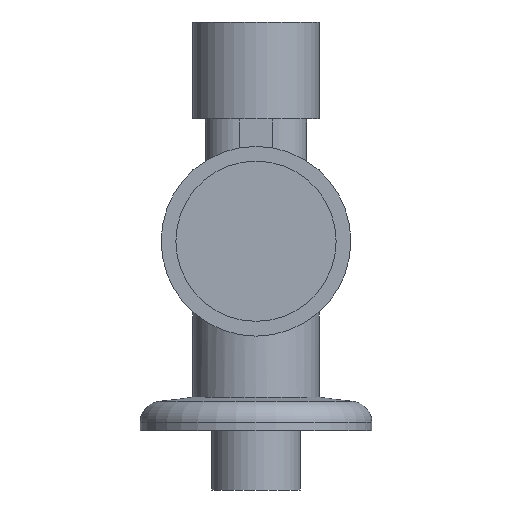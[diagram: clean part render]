
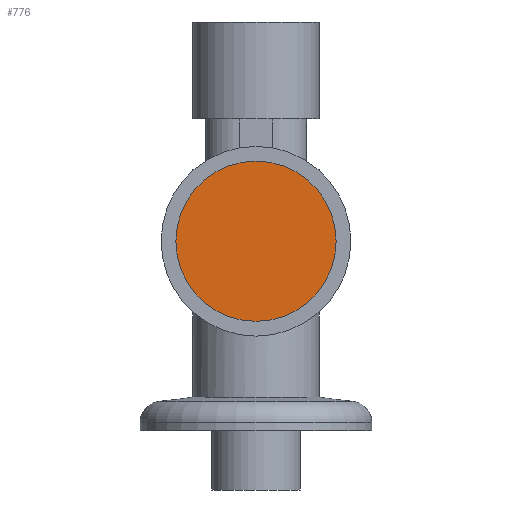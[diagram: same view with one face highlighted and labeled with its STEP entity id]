
A CAD part, front view. The second image highlights one B-rep face of the part: STEP entity #776.
In plain terms, the highlighted planar face has unit normal (0, -1, 0).
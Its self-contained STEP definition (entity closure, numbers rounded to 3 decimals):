
#71=CIRCLE('',#863,19.);
#72=CIRCLE('',#864,19.);
#123=FACE_OUTER_BOUND('',#170,.T.);
#170=EDGE_LOOP('',(#584,#585));
#329=VERTEX_POINT('',#1311);
#330=VERTEX_POINT('',#1312);
#421=EDGE_CURVE('',#329,#330,#71,.T.);
#422=EDGE_CURVE('',#330,#329,#72,.T.);
#584=ORIENTED_EDGE('',*,*,#421,.T.);
#585=ORIENTED_EDGE('',*,*,#422,.T.);
#703=PLANE('',#865);
#776=ADVANCED_FACE('',(#123),#703,.T.);
#863=AXIS2_PLACEMENT_3D('',#1313,#1035,#1036);
#864=AXIS2_PLACEMENT_3D('',#1314,#1037,#1038);
#865=AXIS2_PLACEMENT_3D('',#1316,#1040,#1041);
#1035=DIRECTION('center_axis',(0.,-1.,0.));
#1036=DIRECTION('ref_axis',(1.,0.,0.));
#1037=DIRECTION('center_axis',(0.,-1.,0.));
#1038=DIRECTION('ref_axis',(1.,0.,0.));
#1040=DIRECTION('center_axis',(0.,-1.,0.));
#1041=DIRECTION('ref_axis',(0.,0.,-1.));
#1311=CARTESIAN_POINT('',(0.,-187.,26.));
#1312=CARTESIAN_POINT('',(0.,-187.,64.));
#1313=CARTESIAN_POINT('Origin',(0.,-187.,45.));
#1314=CARTESIAN_POINT('Origin',(0.,-187.,45.));
#1316=CARTESIAN_POINT('Origin',(0.,-187.,45.));
